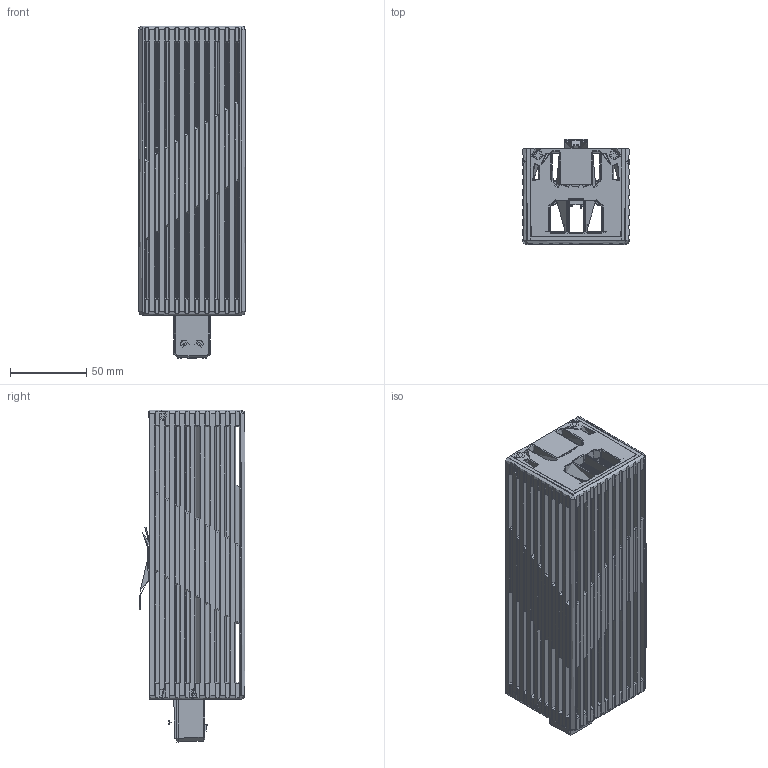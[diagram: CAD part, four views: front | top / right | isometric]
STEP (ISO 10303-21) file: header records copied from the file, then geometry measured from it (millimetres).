
FILE_DESCRIPTION(/* description */ (''),/* implementation_level */ '2;1');
FILE_NAME(/* name */ 'STHT150',/* time_stamp */ '2023-01-24T13:55:20+01:00',/* author */ (''),/* organization */ (''),/* preprocessor_version */ 'ST-DEVELOPER v16.5',/* originating_system */ '',/* authorisation */ '');
FILE_SCHEMA (('AUTOMOTIVE_DESIGN'));
Products named in the file (1): Document
Bounding box: 70.03 x 69.35 x 218.13 mm (x, y, z)
Volume: 284833.5 mm3; surface area: 309604.5 mm2
Topology: 17 solids, 423 shells, 2879 faces, 10159 edges, 7851 vertices
Faces by surface type: bspline 2152, plane 727
Entity records: 172275 total; most frequent: CARTESIAN_POINT 116569, ORIENTED_EDGE 15824, EDGE_CURVE 9034, B_SPLINE_CURVE_WITH_KNOTS 6893, VERTEX_POINT 6737, EDGE_LOOP 2793, ADVANCED_FACE 2673, FACE_OUTER_BOUND 2673
